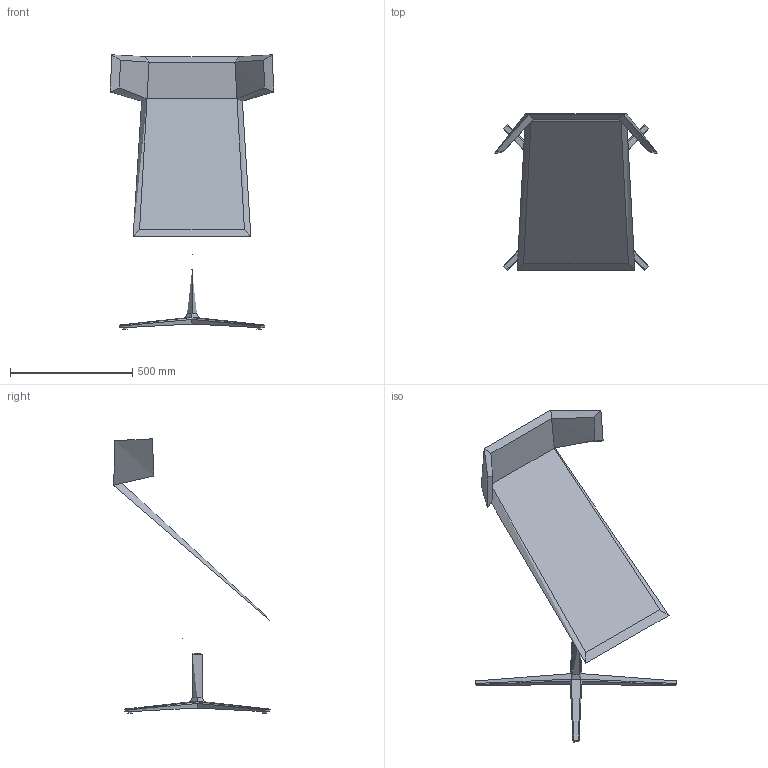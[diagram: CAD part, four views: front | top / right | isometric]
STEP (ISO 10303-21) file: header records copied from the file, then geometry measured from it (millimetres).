
FILE_DESCRIPTION(/* description */ (''),/* implementation_level */ '2;1');
FILE_NAME(/* name */ 'FLEXIX~2',/* time_stamp */ '2015-11-09T16:51:28+01:00',/* author */ (''),/* organization */ (''),/* preprocessor_version */ 'ST-DEVELOPER v15',/* originating_system */ '',/* authorisation */ '');
FILE_SCHEMA (('CONFIG_CONTROL_DESIGN'));
Length unit declared in the file: millimetre
Products named in the file (1): Document
Bounding box: 669.65 x 640.87 x 1123.96 mm (x, y, z)
Volume: 34952085.2 mm3; surface area: 1685600.5 mm2
Topology: 1 solids, 7 shells, 74 faces, 173 edges, 101 vertices
Faces by surface type: bspline 56, plane 18
Entity records: 20557 total; most frequent: CARTESIAN_POINT 19526, ORIENTED_EDGE 304, EDGE_CURVE 170, VERTEX_POINT 101, EDGE_LOOP 76, ADVANCED_FACE 74, FACE_OUTER_BOUND 74, B_SPLINE_CURVE_WITH_KNOTS 51
